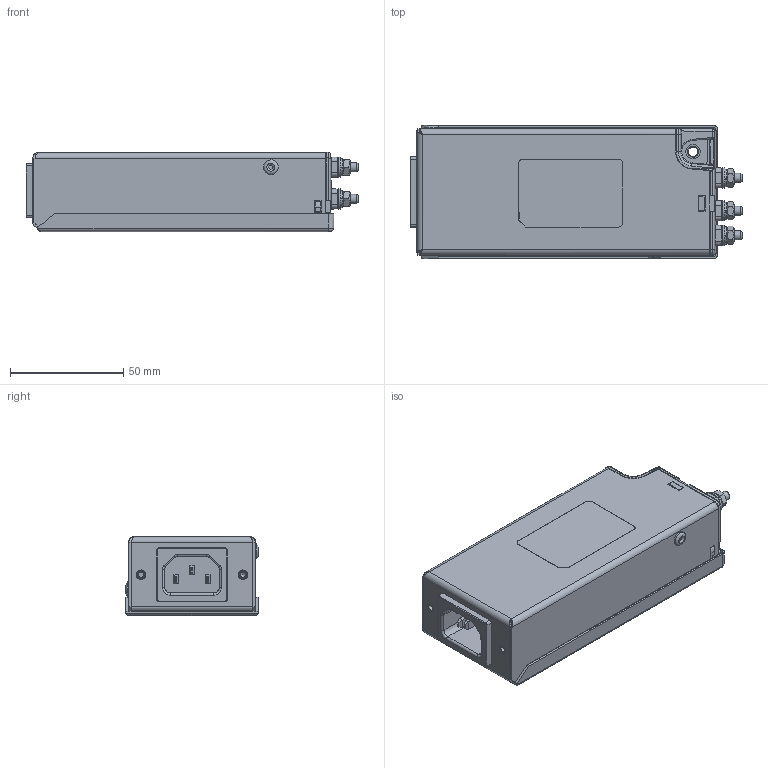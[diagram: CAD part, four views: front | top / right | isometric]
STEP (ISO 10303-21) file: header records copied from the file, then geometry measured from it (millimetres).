
FILE_DESCRIPTION(/* description */ (''),/* implementation_level */ '2;1');
FILE_NAME(/* name */ 'C:\Users\Christian.Ackermann\OneDrive - Schaffner EMV AG\Desktop\UMA_customerSTEP\FN2640-10_15-08.stp',/* time_stamp */ '2021-08-24T10:40:16+02:00',/* author */ ('Christian.Ackermann'),/* organization */ (''),/* preprocessor_version */ 'ST-DEVELOPER v18.1',/* originating_system */ 'Autodesk Inventor 2020',/* authorisation */ '');
FILE_SCHEMA (('AUTOMOTIVE_DESIGN { 1 0 10303 214 3 1 1 }'));
Length unit declared in the file: millimetre
Products named in the file (1): FN2640-10_15-08
Bounding box: 146.6 x 59 x 35.06 mm (x, y, z)
Volume: 248596.6 mm3; surface area: 40808.4 mm2
Topology: 1 solids, 1 shells, 1199 faces, 3015 edges, 1852 vertices
Faces by surface type: plane 511, cylinder 423, bspline 126, torus 67, sphere 37, cone 35
Full cylindrical faces by diameter (mm): 2 x2, 2.459 x2, 2.8 x3, 4 x6, 4.2 x1, 4.25 x2, 4.3 x3, 6.111 x1, 6.4 x2, 6.5 x2, 8.39 x2, 8.74 x3, 9 x3
Entity records: 40388 total; most frequent: CARTESIAN_POINT 10209, DIRECTION 6123, ORIENTED_EDGE 6018, EDGE_CURVE 3009, AXIS2_PLACEMENT_3D 2216, VERTEX_POINT 1852, LINE 1691, VECTOR 1691
